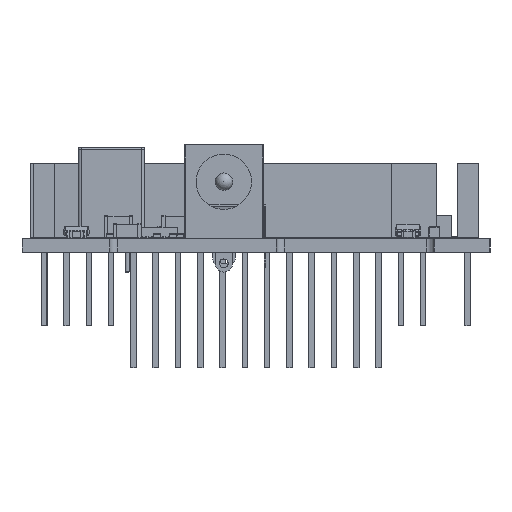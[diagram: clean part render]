
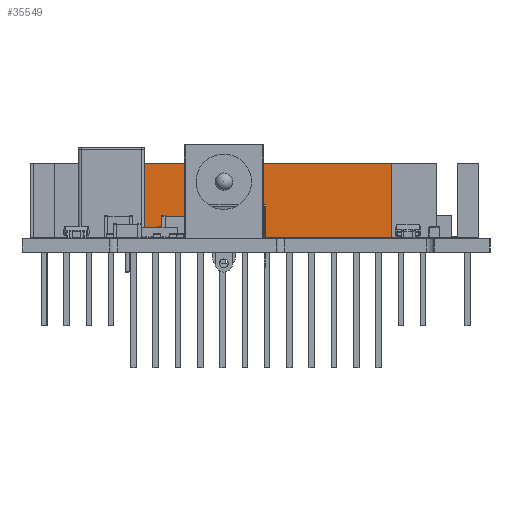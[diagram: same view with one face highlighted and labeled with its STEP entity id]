
A CAD part, left-side view. The second image highlights one B-rep face of the part: STEP entity #35549.
In plain terms, the highlighted planar face has unit normal (-1, 0, 0).
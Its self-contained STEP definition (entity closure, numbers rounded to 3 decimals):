
#35549 = ADVANCED_FACE('',(#35550),#35584,.F.);
#35550 = FACE_BOUND('',#35551,.F.);
#35551 = EDGE_LOOP('',(#35552,#35562,#35570,#35578));
#35552 = ORIENTED_EDGE('',*,*,#35553,.F.);
#35553 = EDGE_CURVE('',#35554,#35556,#35558,.T.);
#35554 = VERTEX_POINT('',#35555);
#35555 = CARTESIAN_POINT('',(80.1,-42.166,0.));
#35556 = VERTEX_POINT('',#35557);
#35557 = CARTESIAN_POINT('',(80.1,-42.166,8.51));
#35558 = LINE('',#35559,#35560);
#35559 = CARTESIAN_POINT('',(80.1,-42.166,0.));
#35560 = VECTOR('',#35561,1.);
#35561 = DIRECTION('',(0.,0.,1.));
#35562 = ORIENTED_EDGE('',*,*,#35563,.T.);
#35563 = EDGE_CURVE('',#35554,#35564,#35566,.T.);
#35564 = VERTEX_POINT('',#35565);
#35565 = CARTESIAN_POINT('',(80.1,-11.176,0.));
#35566 = LINE('',#35567,#35568);
#35567 = CARTESIAN_POINT('',(80.1,-42.166,0.));
#35568 = VECTOR('',#35569,1.);
#35569 = DIRECTION('',(-0.,1.,0.));
#35570 = ORIENTED_EDGE('',*,*,#35571,.T.);
#35571 = EDGE_CURVE('',#35564,#35572,#35574,.T.);
#35572 = VERTEX_POINT('',#35573);
#35573 = CARTESIAN_POINT('',(80.1,-11.176,8.51));
#35574 = LINE('',#35575,#35576);
#35575 = CARTESIAN_POINT('',(80.1,-11.176,0.));
#35576 = VECTOR('',#35577,1.);
#35577 = DIRECTION('',(0.,0.,1.));
#35578 = ORIENTED_EDGE('',*,*,#35579,.F.);
#35579 = EDGE_CURVE('',#35556,#35572,#35580,.T.);
#35580 = LINE('',#35581,#35582);
#35581 = CARTESIAN_POINT('',(80.1,-42.166,8.51));
#35582 = VECTOR('',#35583,1.);
#35583 = DIRECTION('',(-0.,1.,0.));
#35584 = PLANE('',#35585);
#35585 = AXIS2_PLACEMENT_3D('',#35586,#35587,#35588);
#35586 = CARTESIAN_POINT('',(80.1,-42.166,0.));
#35587 = DIRECTION('',(1.,0.,-0.));
#35588 = DIRECTION('',(0.,0.,1.));
